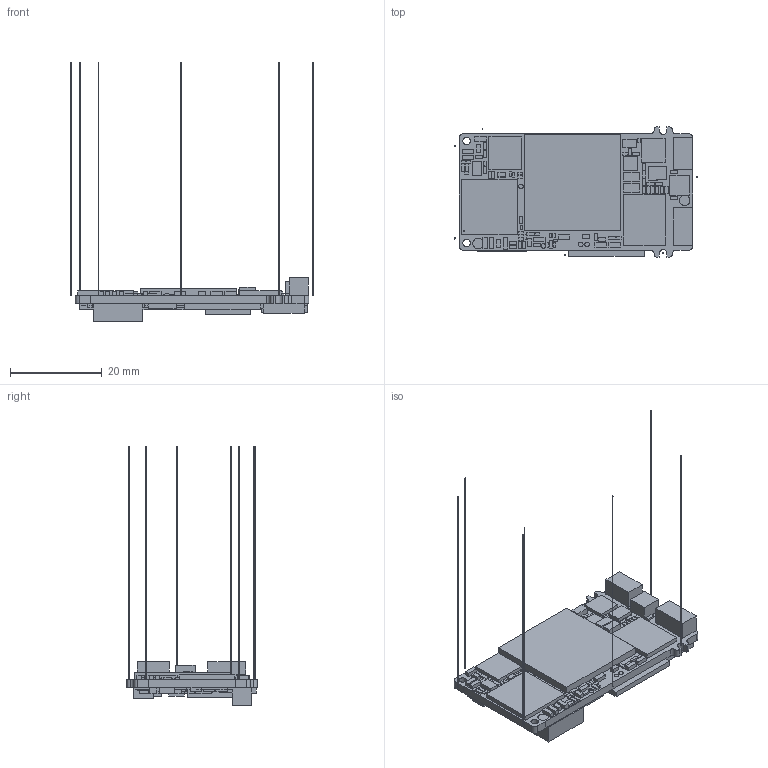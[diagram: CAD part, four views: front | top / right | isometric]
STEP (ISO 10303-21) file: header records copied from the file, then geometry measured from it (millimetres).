
FILE_DESCRIPTION(('FreeCAD Model'),'2;1');
FILE_NAME('D:/Working/MARIS/WILCOX/Out/WILCOX.STP','2016-02-15T13:29:34' ,('FreeCAD'),('FreeCAD'),'Open CASCADE STEP processor 6.5','FreeCAD', 'Unknown');
FILE_SCHEMA(('AUTOMOTIVE_DESIGN_CC2 { 1 2 10303 214 -1 1 5 4 }'));
Length unit declared in the file: millimetre
Products named in the file (471): C2; C1053; C155; C126; C189; C218; C212; C125; C197; C1050; C121; C201; C1056; C1052; C167; C181; C164; C23; C100; C102; C151; C153; C112; C12; C1055; C136; C195; C122; C192; C208; C157; C1044; C154; C131; C210; C123; C119; C129; C132; C166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
Bounding box: 53.03 x 28.45 x 56.49 mm (x, y, z)
Volume: 4837.2 mm3; surface area: 8787.2 mm2
Topology: 471 solids, 471 shells, 2818 faces, 5628 edges, 3752 vertices
Faces by surface type: plane 2764, cylinder 54
Full cylindrical faces by diameter (mm): 1.651 x2
Entity records: 153256 total; most frequent: CARTESIAN_POINT 23779, DIRECTION 22576, LINE 16668, VECTOR 16668, ORIENTED_EDGE 11256, PCURVE 11256, DEFINITIONAL_REPRESENTATION 11256, EDGE_CURVE 5628
